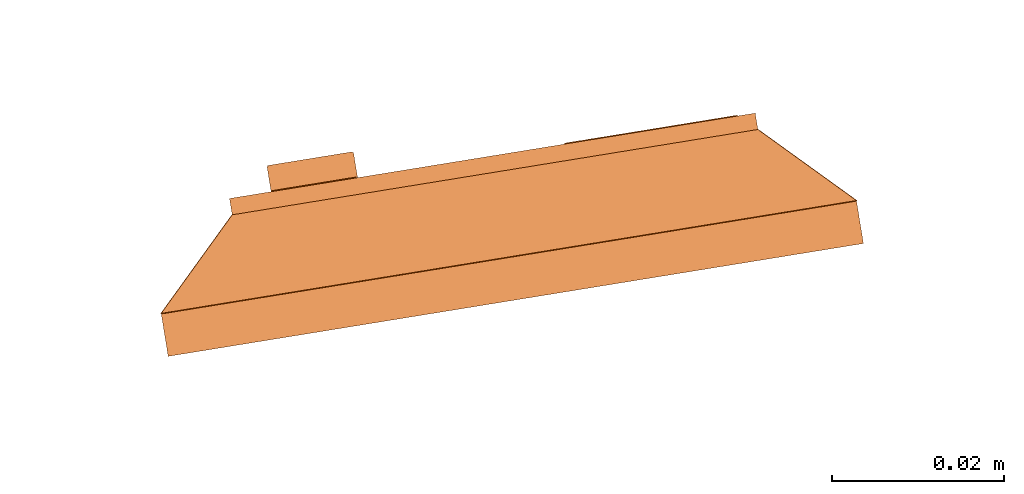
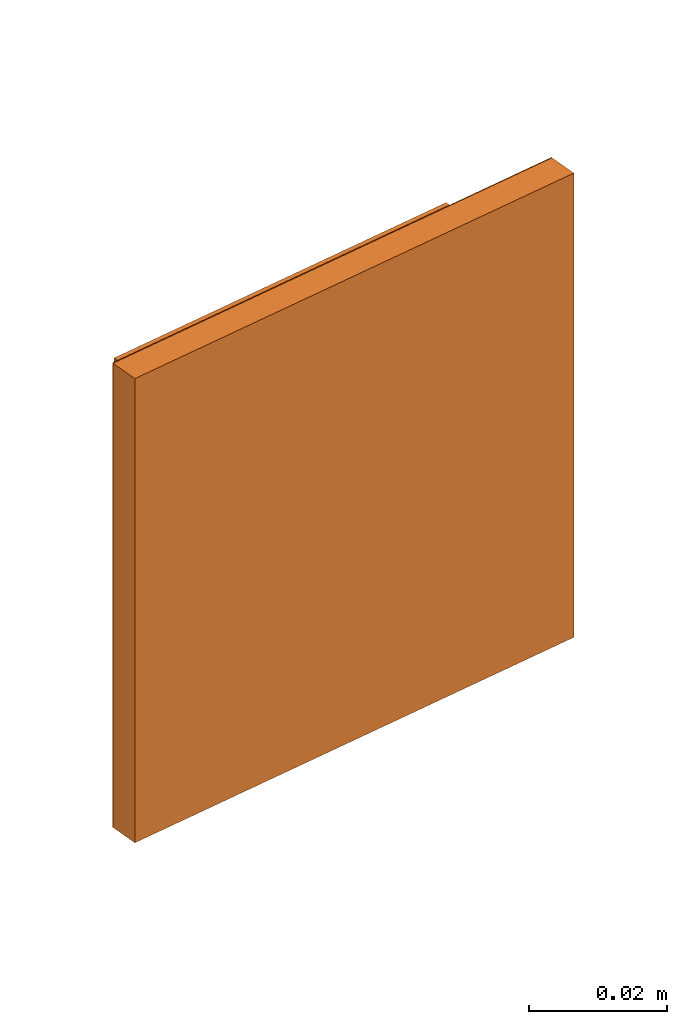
# One storey, part 12 of 20: 1 proxy.
"""IFC2X3 building model written with IfcOpenShell, lengths in millimetres."""

from ifc_helpers import new_model, entity, si_unit, converted_unit, derived_unit, direction, frame, frame_2d, origin, origin_with_axes, origin_2d_with_axis, place, context, subcontext, project, spatial, polyline, rectangle, circle, outline, extrude, source, transform, mapped, material, type_object, element, save


model = new_model("IFC2X3")

# Units and contexts
model_context = context("Model", 3, precision=0.01, world=origin(), true_north=direction((6.12323399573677e-17, 1.0)))
plan_context = context("Plan", 3, precision=1e-05, world=origin_with_axes())
body_context = subcontext(model_context, "Body", "Model", "MODEL_VIEW")
ifc_project = project(units=[converted_unit("PLANEANGLEUNIT", "DEGREE", entity("IfcPositiveLengthMeasure", 0.0174532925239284), si_unit("PLANEANGLEUNIT", "RADIAN"), dimensions=[0, 0, 0, 0, 0, 0, 0]), si_unit("AREAUNIT", "SQUARE_METRE"), si_unit("LENGTHUNIT", "METRE", prefix="MILLI"), si_unit("MASSUNIT", "GRAM", prefix="KILO"), si_unit("POWERUNIT", "WATT"), si_unit("PRESSUREUNIT", "PASCAL", prefix="KILO"), si_unit("FORCEUNIT", "NEWTON", prefix="KILO"), si_unit("ELECTRICVOLTAGEUNIT", "VOLT"), si_unit("ELECTRICCURRENTUNIT", "AMPERE"), si_unit("THERMODYNAMICTEMPERATUREUNIT", "DEGREE_CELSIUS"), si_unit("TIMEUNIT", "SECOND"), si_unit("VOLUMEUNIT", "CUBIC_METRE"), derived_unit("LINEARVELOCITYUNIT", [(si_unit("LENGTHUNIT", "METRE"), 1), (si_unit("TIMEUNIT", "SECOND"), -1)]), derived_unit("VOLUMETRICFLOWRATEUNIT", [(si_unit("VOLUMEUNIT", "CUBIC_METRE"), 1), (si_unit("TIMEUNIT", "SECOND"), -1)]), derived_unit("THERMALTRANSMITTANCEUNIT", [(si_unit("POWERUNIT", "WATT"), 1), (si_unit("THERMODYNAMICTEMPERATUREUNIT", "KELVIN"), -1), (si_unit("AREAUNIT", "SQUARE_METRE"), -1)]), derived_unit("SOUNDPRESSUREUNIT", [(si_unit("PRESSUREUNIT", "PASCAL"), 1)])], contexts=[model_context, plan_context])

# Site, building, storey
site_placement = place(None, frame((-0.219946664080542, 0.12226179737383, 0.0), z_axis=(0.0, 0.0, 1.0), x_axis=(-0.160236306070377, 0.987078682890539, 0.0)))
site = spatial("IfcSite", under=ifc_project, at=site_placement, Name="Default", CompositionType="ELEMENT")
building_placement = place(site_placement, origin_with_axes())
building = spatial("IfcBuilding", under=site, at=building_placement, CompositionType="ELEMENT")
storey_placement = place(building_placement, frame((0.0, 0.0, 50999.9999999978), z_axis=(0.0, 0.0, 1.0), x_axis=(1.0, 0.0, 0.0)))
storey = spatial("IfcBuildingStorey", under=building, at=storey_placement, Name="Nivå D", CompositionType="ELEMENT", Elevation=50999.9999999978)

# Proxy
ifc_material = material(Name="<Unnamed>")
building_element_proxy_type = type_object("IfcBuildingElementProxyType", Name="Styrepanel_FC:Styrepanel-FC", PredefinedType="NOTDEFINED", material=ifc_material)
shared_shape = source(origin(), body_context, "Body", "SweptSolid", [
    extrude(rectangle(XDim=0.200000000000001, YDim=9.99999999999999, at=frame_2d((2.22044604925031e-15, -2.25514051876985e-15), x_axis=(0.0, 1.0))), frame((21.0, -19.9768091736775, -9.77872704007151), z_axis=(0.0, 0.148340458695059, 0.988936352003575), x_axis=(-1.0, 0.0, 0.0)), (0.0, 0.0, 1.0), 20.0),
    extrude(rectangle(XDim=0.199999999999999, YDim=2.9750493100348, at=frame_2d((2.1094237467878e-15, 1.59594559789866e-16), x_axis=(0.0, 1.0))), frame((16.0, -18.493404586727, -9.88936352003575), z_axis=(1.0, 0.0, 0.0), x_axis=(0.0, 0.997230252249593, -0.0743762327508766)), (0.0, 0.0, 1.0), 9.99999999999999),
    extrude(outline(polyline([(-6.74042431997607, -0.988936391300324), (13.2595756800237, -0.988936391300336), (-6.5191513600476, 1.97787278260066), (-6.74042431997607, -0.988936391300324)])), frame((25.9, -17.9989363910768, -3.25957568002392), z_axis=(1.0, 0.0, 0.0), x_axis=(0.0, 0.0, 1.0)), (0.0, 0.0, 1.0), 0.200000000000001),
    extrude(outline(polyline([(-6.74042431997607, -0.988936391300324), (13.2595756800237, -0.988936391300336), (-6.5191513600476, 1.97787278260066), (-6.74042431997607, -0.988936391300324)])), frame((15.9, -17.9989363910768, -3.25957568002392), z_axis=(1.0, 0.0, 0.0), x_axis=(0.0, 0.0, 1.0)), (0.0, 0.0, 1.0), 0.199999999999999),
    extrude(rectangle(XDim=9.99999999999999, YDim=0.199999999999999, at=frame_2d((2.22044604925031e-15, 1.06165076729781e-15), x_axis=(1.0, 0.0))), frame((21.0, -17.0099999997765, -10.0), z_axis=(0.0, 0.0, 1.0), x_axis=(-1.0, 0.0, 0.0)), (0.0, 0.0, 1.0), 20.0),
    extrude(outline(polyline([(-29.4448637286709, -29.3938769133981), (-12.1243556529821, -29.3938769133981), (23.6713610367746, 21.2289111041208), (17.8978583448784, 37.5588427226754), (-29.4448637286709, -29.3938769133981)])), frame((36.0707106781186, -10.0707106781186, 0.0), z_axis=(-0.707106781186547, 0.707106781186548, 0.0), x_axis=(-0.577350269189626, -0.577350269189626, 0.577350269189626)), (0.0, 0.0, 1.0), 0.199999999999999),
    extrude(outline(polyline([(-41.0, -7.07106781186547), (41.0, -7.07106781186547), (31.0, 7.07106781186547), (-31.0, 7.07106781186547), (-41.0, -7.07106781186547)])), frame((-36.0707106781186, -10.0707106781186, 0.0), z_axis=(0.707106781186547, 0.707106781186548, 0.0), x_axis=(0.0, 0.0, 1.0)), (0.0, 0.0, 1.0), 0.200000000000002),
    extrude(outline(polyline([(12.1243556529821, -29.3938769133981), (29.4448637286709, -29.3938769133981), (-17.8978583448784, 37.5588427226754), (-23.6713610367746, 21.2289111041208), (12.1243556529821, -29.3938769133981)])), frame((0.0, -10.0707106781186, -36.0707106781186), z_axis=(0.0, 0.707106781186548, 0.707106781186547), x_axis=(0.577350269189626, 0.577350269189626, -0.577350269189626)), (0.0, 0.0, 1.0), 0.199999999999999),
    extrude(outline(polyline([(-31.0, -7.07106781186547), (31.0, -7.07106781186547), (41.0, 7.07106781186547), (-41.0, 7.07106781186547), (-31.0, -7.07106781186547)])), frame((0.0, -10.0707106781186, 36.0707106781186), z_axis=(0.0, 0.707106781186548, -0.707106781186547), x_axis=(-1.0, 0.0, 0.0)), (0.0, 0.0, 1.0), 0.199999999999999),
    extrude(rectangle(XDim=61.9999999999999, YDim=0.200000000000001, at=origin_2d_with_axis()), frame((0.0, -15.0, -31.0), z_axis=(0.0, 0.0, 1.0), x_axis=(-1.0, 0.0, 0.0)), (0.0, 0.0, 1.0), 61.9999999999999),
    extrude(circle(Radius=0.999999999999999, at=frame_2d((0.0, -1.05748743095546e-15), x_axis=(1.0, 0.0))), frame((-9.49999999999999, -17.1199999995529, 7.0), z_axis=(0.0, 1.0, 0.0), x_axis=(0.0, 0.0, 1.0)), (0.0, 0.0, 1.0), 0.199999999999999),
    extrude(circle(Radius=0.5, at=origin_2d_with_axis()), frame((-11.5, -17.1199999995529, 5.0), z_axis=(0.0, 1.0, 0.0), x_axis=(0.0, 0.0, 1.0)), (0.0, 0.0, 1.0), 0.199999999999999),
    extrude(circle(Radius=9.99999999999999, at=frame_2d((0.0, -1.48048240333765e-14), x_axis=(1.0, 0.0))), frame((-19.0, -17.1099999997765, 0.0), z_axis=(0.0, 1.0, 0.0), x_axis=(0.0, 0.0, 1.0)), (0.0, 0.0, 1.0), 0.199999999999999),
    extrude(rectangle(XDim=2.0, YDim=61.9999999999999, at=origin_2d_with_axis()), frame((0.0, -16.0, -31.0), z_axis=(0.0, 0.0, 1.0), x_axis=(0.0, -1.0, 0.0)), (0.0, 0.0, 1.0), 61.9999999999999),
    extrude(rectangle(XDim=4.99999999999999, YDim=81.9999999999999, at=origin_2d_with_axis()), frame((0.0, -2.5, -41.0), z_axis=(0.0, 0.0, 1.0), x_axis=(0.0, -1.0, 0.0)), (0.0, 0.0, 1.0), 81.9999999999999),
])
proxy_placement = place(storey_placement, frame((775665.119644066, -592780.596124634, 0.0), z_axis=(0.0, 0.0, 1.0), x_axis=(0.0, 1.0, 0.0)))
element("IfcBuildingElementProxy", 1, at=proxy_placement, inside=storey, type_object=building_element_proxy_type, material=ifc_material, Name="Styrepanel_FC:Styrepanel-FC", ObjectType="Styrepanel_FC:Styrepanel-FC", context=body_context, shape_type="MappedRepresentation", body=[
    mapped(shared_shape, transform((0.0, 0.0, 0.0), scale=1.0)),
])

save(model, "model.ifc")
